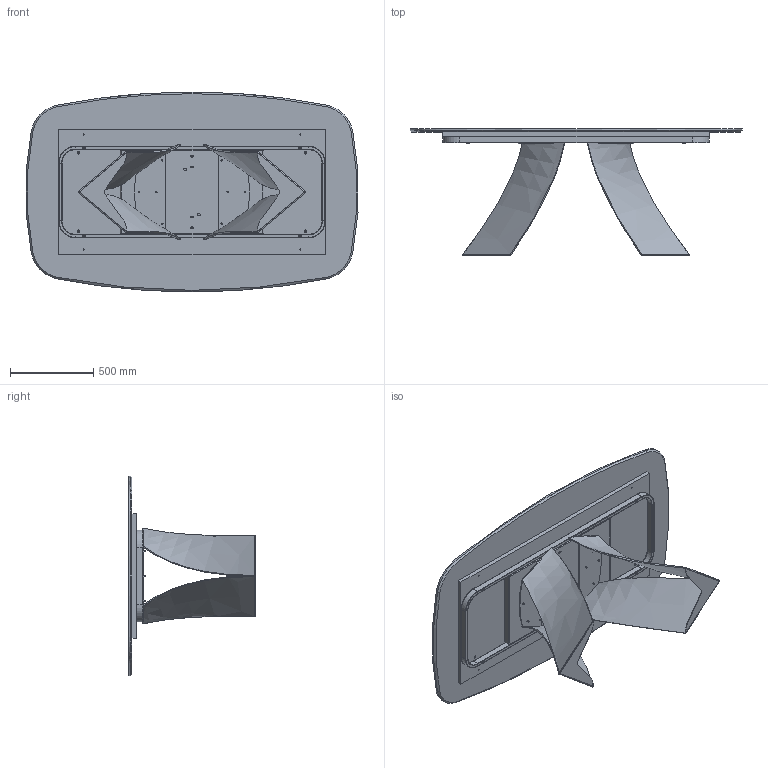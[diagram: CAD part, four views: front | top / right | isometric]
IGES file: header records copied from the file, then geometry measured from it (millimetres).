
Start section: SolidWorks IGES file using analytic representation for surfaces
Global section: file name: Y:\eforma\TECNICO\SOLIDWORKS\E-FORMA\1-TAVOLI\TWIST\02 parts\TW41M.IGS; native system: SolidWorks 2022; preprocessor: SolidWorks 2022; author: eforma.tech; date: 240807.143934; units: millimetre
Bounding box: 1992.14 x 760.37 x 1200 mm (x, y, z)
Volume: 83830316.4 mm3; surface area: 11381546.4 mm2
Topology: 53 solids, 53 shells, 1316 faces, 3086 edges, 1845 vertices
Faces by surface type: revolution 780, plane 470, bspline 66
